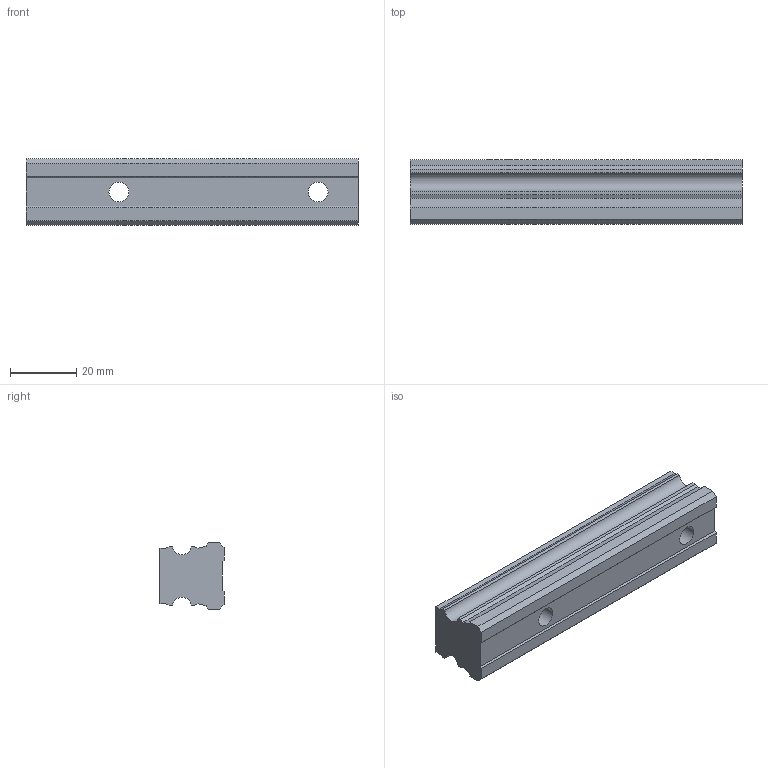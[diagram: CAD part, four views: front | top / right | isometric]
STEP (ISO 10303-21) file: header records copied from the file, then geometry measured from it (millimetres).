
FILE_DESCRIPTION( ( '' ), '1' );
FILE_NAME( 'c:/dr_tretter_step_out/schienenfuehrungen/alu_sf/a20_0100.stp', '2008-09-03T09:11:43', ( '' ), ( '' ), ' ', ' ', ' ' );
FILE_SCHEMA( ( 'CONFIG_CONTROL_DESIGN' ) );
Length unit declared in the file: millimetre
Products named in the file (1): 1
Bounding box: 100 x 19.3 x 20 mm (x, y, z)
Volume: 30535 mm3; surface area: 9502.2 mm2
Topology: 1 solids, 1 shells, 38 faces, 102 edges, 68 vertices
Faces by surface type: plane 28, cylinder 10
Entity records: 1238 total; most frequent: CARTESIAN_POINT 209, ORIENTED_EDGE 204, DIRECTION 200, EDGE_CURVE 102, LINE 82, VECTOR 82, VERTEX_POINT 68, AXIS2_PLACEMENT_3D 59
